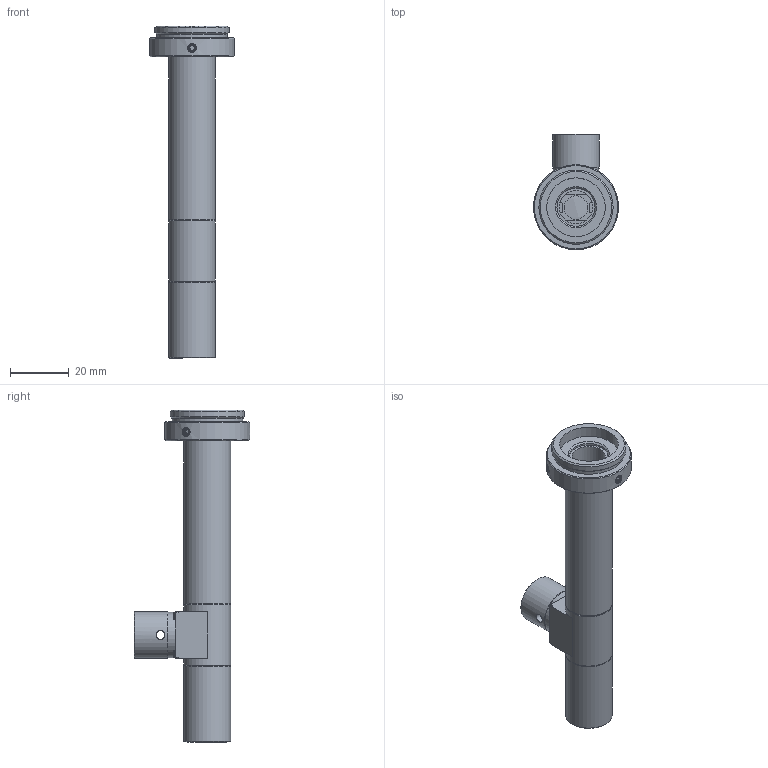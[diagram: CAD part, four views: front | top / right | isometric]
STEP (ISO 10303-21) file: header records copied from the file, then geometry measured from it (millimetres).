
FILE_DESCRIPTION(('STEP AP214'),'1');
FILE_NAME('RTK-6F-110.stp','2026-03-17T06:26:00',(' '),(' '),'Spatial InterOp 3D',' ',' ');
FILE_SCHEMA(('AUTOMOTIVE_DESIGN { 1 0 10303 214 1 1 1 1 }'));
Length unit declared in the file: metre
Products named in the file (2): RTK-6F-110; Component1
Assembly tree (1 placements, depth 2):
  RTK-6F-110
    Component1
Bounding box: 29 x 39.5 x 113.29 mm (x, y, z)
Volume: 15566.3 mm3; surface area: 14895.5 mm2
Topology: 1 solids, 13 shells, 333 faces, 797 edges, 519 vertices
Faces by surface type: plane 157, cone 84, cylinder 75, torus 8, sphere 6, bspline 3
Full cylindrical faces by diameter (mm): 1.7 x8, 1.8 x4, 2.5 x6, 3 x2, 6.5 x1, 8 x2, 9 x1, 10 x1, 11.4 x1, 12 x2, 12.7 x1, 13 x2, 13.4 x1, 13.5 x2, 13.7 x1, 13.9 x1, 14 x2, 14.2 x3, 14.7 x1, 15.5 x1, 16 x6, 20 x1, 24.12 x1, 25.32 x1, 29 x1
Entity records: 12162 total; most frequent: CARTESIAN_POINT 2366, DIRECTION 1512, ORIENTED_EDGE 1276, AXIS2_PLACEMENT_3D 641, EDGE_CURVE 638, EDGE_LOOP 492, VERTEX_POINT 474, FACE_OUTER_BOUND 396
